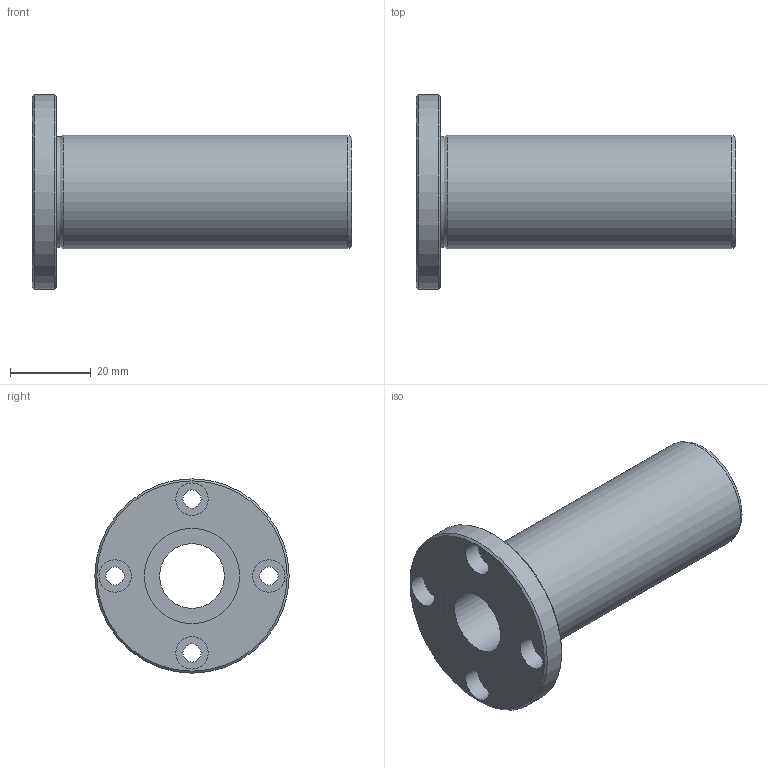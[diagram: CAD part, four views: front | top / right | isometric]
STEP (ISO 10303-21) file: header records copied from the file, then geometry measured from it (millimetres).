
FILE_DESCRIPTION((''),'2;1');
FILE_NAME('D:\製品 (図面)\カタログ用3D\メンテナンスフリー関連\STEP形式\LFD-MF\LFD16MF.stp','2010-06-01T15:44:51',('Tsuchiya'),(''),'Autodesk Inventor 10','Autodesk Inventor 10','');
FILE_SCHEMA(('AUTOMOTIVE_DESIGN { 1 0 10303 214 1 1 1 1 }'));
Length unit declared in the file: millimetre
Products named in the file (1): LFD16MF
Bounding box: 79 x 48 x 48 mm (x, y, z)
Volume: 38802.4 mm3; surface area: 14824.8 mm2
Topology: 1 solids, 1 shells, 26 faces, 47 edges, 30 vertices
Faces by surface type: cylinder 13, plane 9, cone 2, torus 1, bspline 1
Full cylindrical faces by diameter (mm): 4.5 x4, 8 x4, 16 x1, 23.5 x2, 28 x1, 48 x1
Entity records: 665 total; most frequent: CARTESIAN_POINT 149, DIRECTION 112, ORIENTED_EDGE 60, EDGE_LOOP 60, AXIS2_PLACEMENT_3D 56, FACE_BOUND 34, VERTEX_POINT 30, CIRCLE 30
